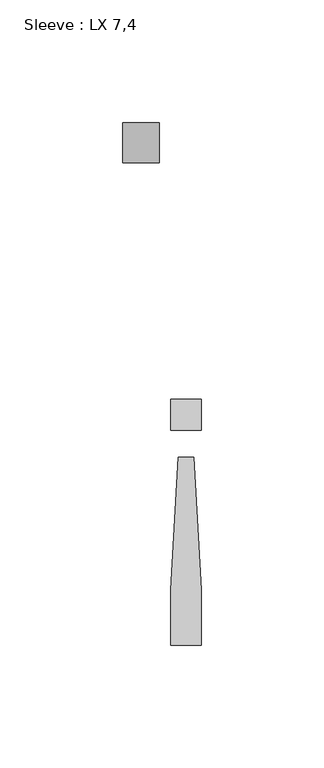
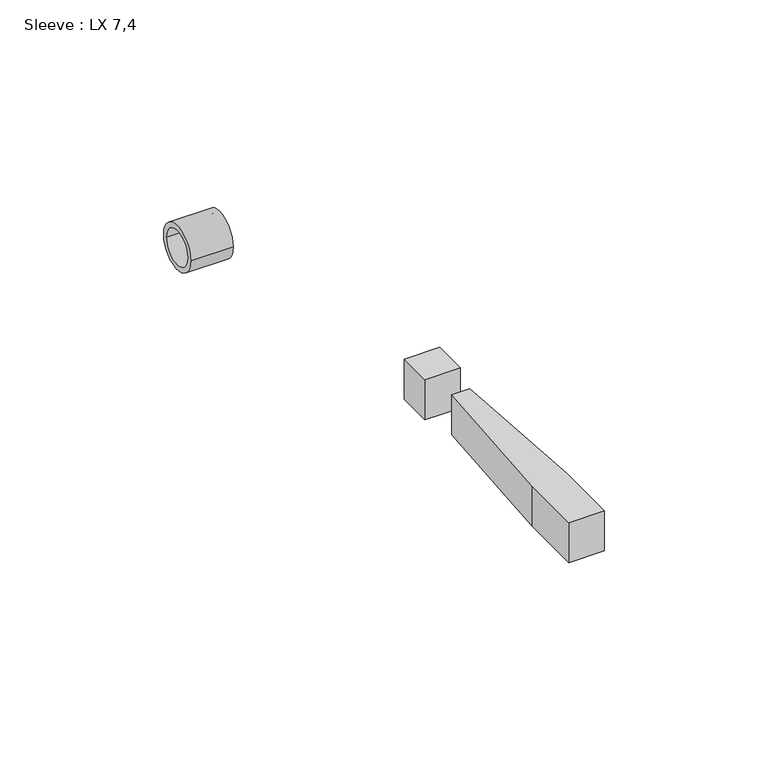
"""IFC4 building model written with IfcOpenShell, lengths in millimetres: pipe fitting geometry, Sleeve : LX 7,4."""

from ifc_helpers import new_model, si_unit, point, frame, origin, origin_with_axes, origin_2d, place, context, project, spatial, polyline, circle_curve, trimmed, segment, composite_curve, outline, extrude, source, transform, mapped, element, save


def sleeve_lx_7_4_533efbed(model_context):
    return source(origin(), model_context, "Body", "SweptSolid", [
        extrude(outline(composite_curve([segment(trimmed(circle_curve(origin_2d(), 8.25), [point((-8.25, 0.0))], [point((8.25, 0.0))], False, "CARTESIAN"), True, "CONTINUOUS"), segment(trimmed(circle_curve(origin_2d(), 8.25), [point((8.25, 0.0))], [point((-8.25, 0.0))], False, "CARTESIAN"), True, "CONTINUOUS")], self_intersect=False), holes=[composite_curve([segment(trimmed(circle_curve(origin_2d(), 6.35), [point((-6.35, 0.0))], [point((6.35, 0.0))], True, "CARTESIAN"), True, "CONTINUOUS"), segment(trimmed(circle_curve(origin_2d(), 6.35), [point((6.35, 0.0))], [point((-6.35, 0.0))], True, "CARTESIAN"), True, "CONTINUOUS")], self_intersect=False)]), frame((0.0, 0.0, 0.0), z_axis=(1.0, 0.0, 0.0), x_axis=(0.0, 1.0, 0.0)), (0.0, 0.0, 1.0), 15.0),
        extrude(outline(polyline([(29.0579101, -128.2693457), (32.1971697, -182.4951517), (32.1971697, -205.1812081), (19.640131, -205.1812081), (19.640131, -182.4951517), (22.7793907, -128.2693457), (29.0579101, -128.2693457)])), origin_with_axes(), (0.0, 0.0, 1.0), 15.0),
        extrude(outline(polyline([(32.1971697, -104.724898), (32.1971697, -117.2819367), (19.640131, -117.2819367), (19.640131, -104.724898), (32.1971697, -104.724898)])), origin_with_axes(), (0.0, 0.0, 1.0), 15.0),
    ])


if __name__ == "__main__":
    model = new_model("IFC4")
    model_context = context("Model", 3, world=origin())
    ifc_project = project(units=[si_unit("LENGTHUNIT", "METRE", prefix="MILLI")], contexts=[model_context])
    site = spatial("IfcSite", under=ifc_project)
    building = spatial("IfcBuilding", under=site)
    placement = place(None, origin())
    sleeve_lx_7_4_shape = sleeve_lx_7_4_533efbed(model_context)
    element("IfcPipeFitting", 1, ObjectType="Sleeve : LX 7,4", at=placement, inside=building, context=model_context, shape_type="MappedRepresentation", body=[
        mapped(sleeve_lx_7_4_shape, transform((0.0, 0.0, 0.0), x_axis=(1.0, 0.0, 0.0), y_axis=(0.0, 1.0, 0.0), z_axis=(0.0, 0.0, 1.0))),
    ])
    save(model, "model.ifc")
